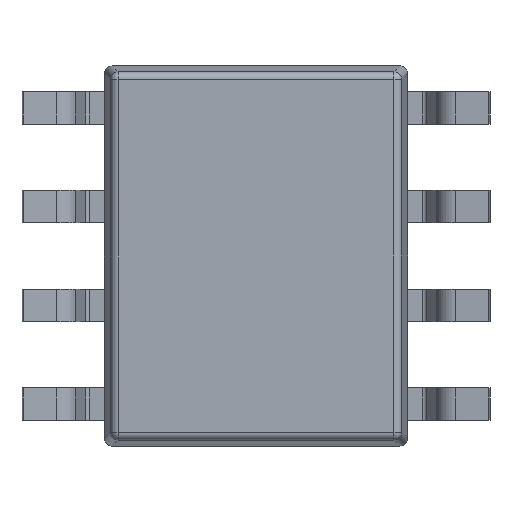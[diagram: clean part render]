
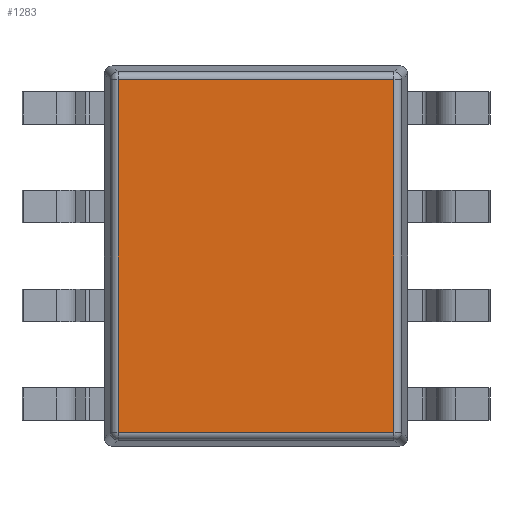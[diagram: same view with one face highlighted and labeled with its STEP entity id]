
A CAD part, front view. The second image highlights one B-rep face of the part: STEP entity #1283.
In plain terms, the highlighted planar face has unit normal (0, -1, 0).
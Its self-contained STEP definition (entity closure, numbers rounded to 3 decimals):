
#22 = DIRECTION ( 'NONE',  ( 0., 0., -1. ) ) ;
#111 = CARTESIAN_POINT ( 'NONE',  ( -1.861, 0.249, 2.269 ) ) ;
#139 = EDGE_CURVE ( 'NONE', #2621, #3281, #4735, .T. ) ;
#178 = VERTEX_POINT ( 'NONE', #4299 ) ;
#196 = DIRECTION ( 'NONE',  ( 0., 0., 1. ) ) ;
#237 = EDGE_CURVE ( 'NONE', #178, #2621, #932, .T. ) ;
#432 = LINE ( 'NONE', #2371, #4753 ) ;
#474 = ORIENTED_EDGE ( 'NONE', *, *, #2476, .T. ) ;
#608 = DIRECTION ( 'NONE',  ( 1., 0., 0. ) ) ;
#932 = LINE ( 'NONE', #2814, #1309 ) ;
#1029 = CARTESIAN_POINT ( 'NONE',  ( -1.774, 0.249, 2.269 ) ) ;
#1125 = PLANE ( 'NONE',  #1441 ) ;
#1129 = VECTOR ( 'NONE', #2799, 1000. ) ;
#1283 = ADVANCED_FACE ( 'NONE', ( #4515 ), #1125, .T. ) ;
#1309 = VECTOR ( 'NONE', #608, 1000. ) ;
#1441 = AXIS2_PLACEMENT_3D ( 'NONE', #3784, #3411, #22 ) ;
#2371 = CARTESIAN_POINT ( 'NONE',  ( -1.774, 0.249, -2.356 ) ) ;
#2476 = EDGE_CURVE ( 'NONE', #4590, #178, #432, .T. ) ;
#2493 = CARTESIAN_POINT ( 'NONE',  ( 1.774, 0.249, 2.356 ) ) ;
#2593 = ORIENTED_EDGE ( 'NONE', *, *, #237, .T. ) ;
#2621 = VERTEX_POINT ( 'NONE', #3933 ) ;
#2629 = LINE ( 'NONE', #111, #1129 ) ;
#2769 = EDGE_CURVE ( 'NONE', #3281, #4590, #2629, .T. ) ;
#2795 = ORIENTED_EDGE ( 'NONE', *, *, #139, .T. ) ;
#2799 = DIRECTION ( 'NONE',  ( -1., 0., 0. ) ) ;
#2814 = CARTESIAN_POINT ( 'NONE',  ( 1.861, 0.249, -2.269 ) ) ;
#2830 = CARTESIAN_POINT ( 'NONE',  ( 1.774, 0.249, 2.269 ) ) ;
#2988 = VECTOR ( 'NONE', #196, 1000. ) ;
#3136 = DIRECTION ( 'NONE',  ( 0., 0., -1. ) ) ;
#3211 = EDGE_LOOP ( 'NONE', ( #4258, #474, #2593, #2795 ) ) ;
#3281 = VERTEX_POINT ( 'NONE', #2830 ) ;
#3411 = DIRECTION ( 'NONE',  ( 0., -1., 0. ) ) ;
#3784 = CARTESIAN_POINT ( 'NONE',  ( 0., 0.249, 0. ) ) ;
#3933 = CARTESIAN_POINT ( 'NONE',  ( 1.774, 0.249, -2.269 ) ) ;
#4258 = ORIENTED_EDGE ( 'NONE', *, *, #2769, .T. ) ;
#4299 = CARTESIAN_POINT ( 'NONE',  ( -1.774, 0.249, -2.269 ) ) ;
#4515 = FACE_OUTER_BOUND ( 'NONE', #3211, .T. ) ;
#4590 = VERTEX_POINT ( 'NONE', #1029 ) ;
#4735 = LINE ( 'NONE', #2493, #2988 ) ;
#4753 = VECTOR ( 'NONE', #3136, 1000. ) ;
